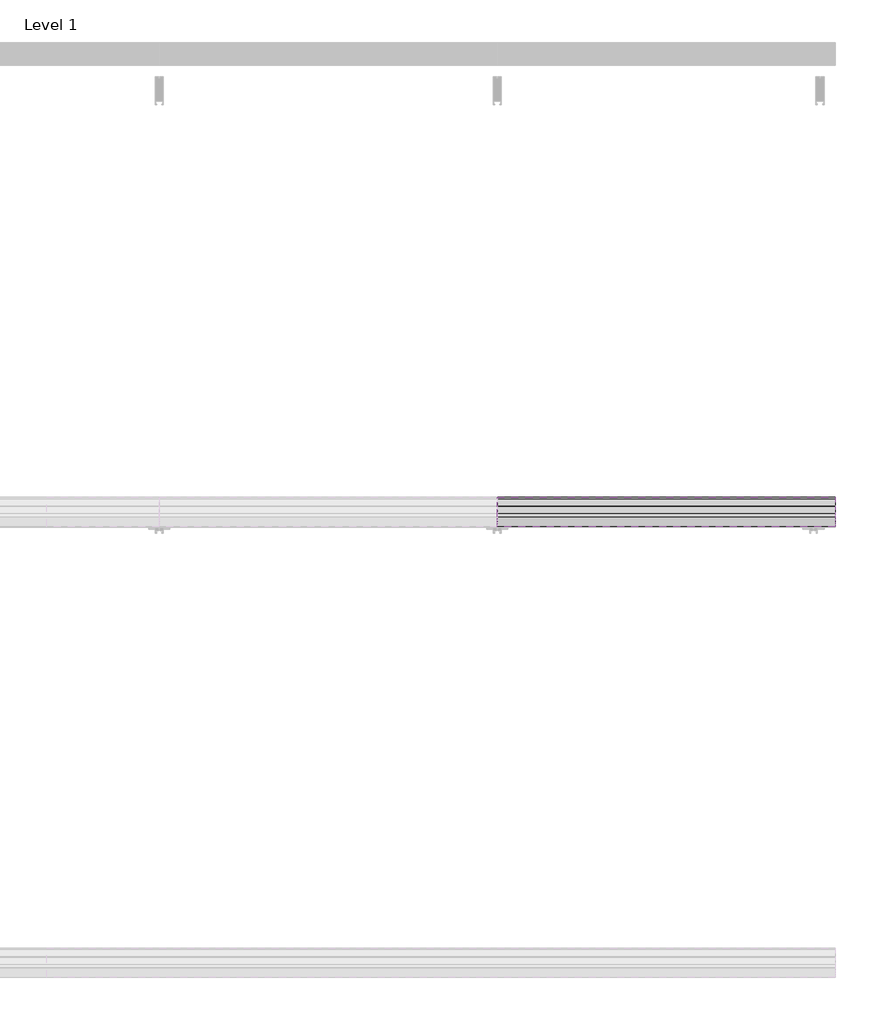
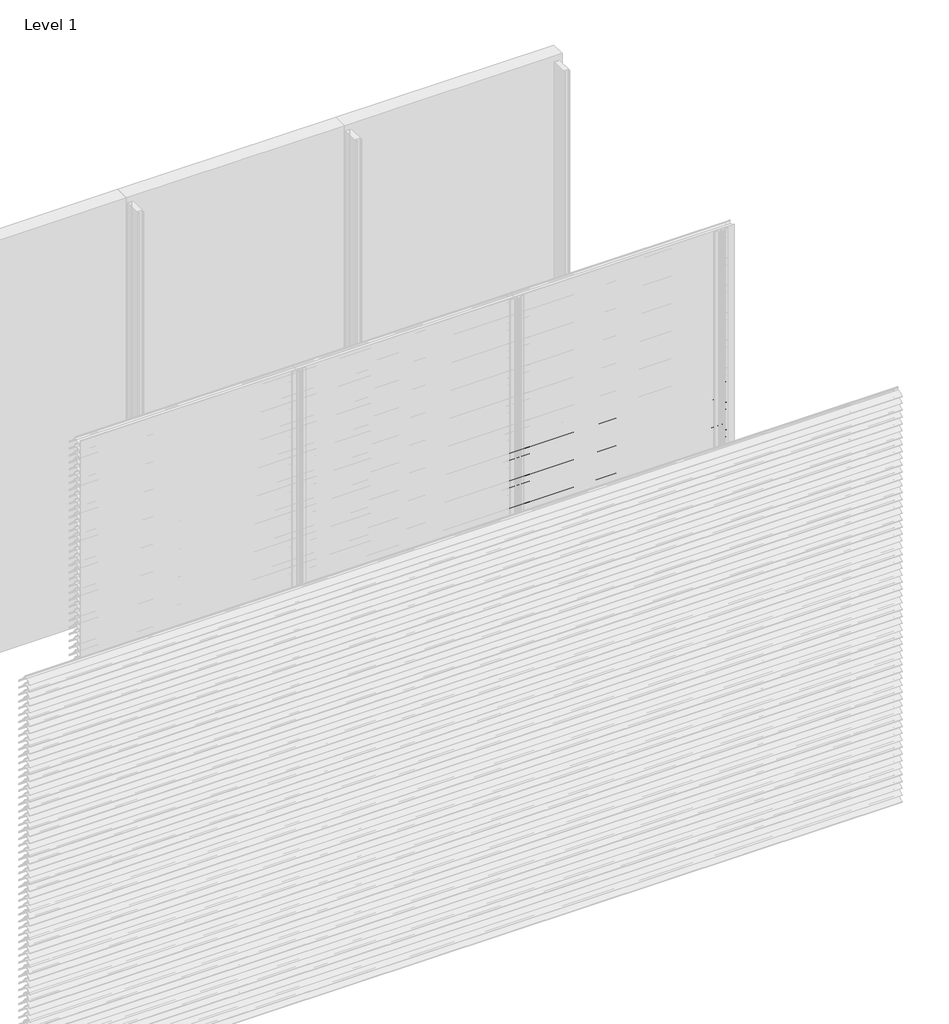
# One storey, part 18 of 173: 17 proxies.
"""IFC4 building model written with IfcOpenShell, lengths in millimetres."""

from ifc_helpers import new_model, si_unit, point, frame, frame_2d, origin, place, context, project, spatial, polyline, circle_curve, trimmed, segment, composite_curve, outline, extrude, element, save

model = new_model("IFC4")

# Units and contexts
model_context = context("Model", 3, world=origin())
ifc_project = project(units=[si_unit("LENGTHUNIT", "METRE", prefix="MILLI")], contexts=[model_context])

# Site, building, storey
site = spatial("IfcSite", under=ifc_project)
building = spatial("IfcBuilding", under=site)
storey = spatial("IfcBuildingStorey", under=building, Name="Level 1", Elevation=0.0)

# Proxies
placement = place(None, origin())
element("IfcBuildingElementProxy", 1, Name="Wall Sweeps", at=placement, inside=storey, context=model_context, shape_type="SweptSolid", body=[
    extrude(outline(composite_curve([segment(polyline([(-53998.0, 1809.1474905), (-53998.0, 1811.6227417)]), True, "CONTINUOUS"), segment(trimmed(circle_curve(frame_2d((-53951.2682172, 1766.2200208)), 65.1557103), [point((-53998.0, 1811.6227417))], [point((-53954.4014323, 1831.3003524))], False, "CARTESIAN"), True, "CONTINUOUS"), segment(polyline([(-53954.4014323, 1831.3003524), (-53934.8315836, 1831.3003524)]), True, "CONTINUOUS"), segment(trimmed(circle_curve(frame_2d((-53732.7329489, 1978.5533172)), 250.0545817), [point((-53934.8315836, 1831.3003524))], [point((-53941.4452143, 1840.8344583))], False, "CARTESIAN"), True, "CONTINUOUS"), segment(trimmed(circle_curve(frame_2d((-53953.2981792, 1835.1737835)), 13.1352966), [point((-53941.4452143, 1840.8344583))], [point((-53953.8171475, 1848.298824))], True, "CARTESIAN"), True, "CONTINUOUS"), segment(polyline([(-53953.8171475, 1848.298824), (-53953.8171475, 1850.0)]), True, "CONTINUOUS"), segment(trimmed(circle_curve(frame_2d((-53953.2981792, 1835.1737835)), 14.8352966), [point((-53953.8171475, 1850.0))], [point((-53939.9637661, 1841.6760487))], False, "CARTESIAN"), True, "CONTINUOUS"), segment(trimmed(circle_curve(frame_2d((-53732.7329489, 1978.5533172)), 248.3545817), [point((-53939.9637661, 1841.6760487))], [point((-53873.8787895, 1774.2059416))], True, "CARTESIAN"), True, "CONTINUOUS"), segment(trimmed(circle_curve(frame_2d((-53883.8147537, 1761.6649442)), 16.0), [point((-53873.8787895, 1774.2059416))], [point((-53867.8648347, 1760.4))], False, "CARTESIAN"), True, "CONTINUOUS"), segment(polyline([(-53867.8648347, 1760.4), (-53869.6712069, 1760.4)]), True, "CONTINUOUS"), segment(trimmed(circle_curve(frame_2d((-53883.8147537, 1761.6649442)), 14.2), [point((-53869.6712069, 1760.4))], [point((-53874.9518628, 1772.7594998))], True, "CARTESIAN"), True, "CONTINUOUS"), segment(trimmed(circle_curve(frame_2d((-53732.7329489, 1978.5533172)), 250.1545817), [point((-53874.9518628, 1772.7594998))], [point((-53933.7064024, 1829.6003524))], False, "CARTESIAN"), True, "CONTINUOUS"), segment(polyline([(-53933.7064024, 1829.6003524), (-53954.3602632, 1829.6003524)]), True, "CONTINUOUS"), segment(trimmed(circle_curve(frame_2d((-53951.2682172, 1766.2200208)), 63.4557103), [point((-53954.3602632, 1829.6003524))], [point((-53998.0, 1809.1474905))], True, "CARTESIAN"), True, "CONTINUOUS")], self_intersect=False)), frame((4500.0, 0.0, 0.0), z_axis=(1.0, 0.0, 0.0), x_axis=(0.0, 1.0, 0.0)), (0.0, 0.0, 1.0), 1500.0),
])
element("IfcBuildingElementProxy", 2, Name="Wall Sweeps", at=placement, inside=storey, context=model_context, shape_type="SweptSolid", body=[
    extrude(outline(composite_curve([segment(polyline([(-53998.0, 1759.1474905), (-53998.0, 1761.6227417)]), True, "CONTINUOUS"), segment(trimmed(circle_curve(frame_2d((-53951.2682172, 1716.2200208)), 65.1557103), [point((-53998.0, 1761.6227417))], [point((-53954.4014323, 1781.3003524))], False, "CARTESIAN"), True, "CONTINUOUS"), segment(polyline([(-53954.4014323, 1781.3003524), (-53934.8315836, 1781.3003524)]), True, "CONTINUOUS"), segment(trimmed(circle_curve(frame_2d((-53732.7329489, 1928.5533172)), 250.0545817), [point((-53934.8315836, 1781.3003524))], [point((-53941.4452143, 1790.8344583))], False, "CARTESIAN"), True, "CONTINUOUS"), segment(trimmed(circle_curve(frame_2d((-53953.2981792, 1785.1737835)), 13.1352966), [point((-53941.4452143, 1790.8344583))], [point((-53953.8171475, 1798.298824))], True, "CARTESIAN"), True, "CONTINUOUS"), segment(polyline([(-53953.8171475, 1798.298824), (-53953.8171475, 1800.0)]), True, "CONTINUOUS"), segment(trimmed(circle_curve(frame_2d((-53953.2981792, 1785.1737835)), 14.8352966), [point((-53953.8171475, 1800.0))], [point((-53939.9637661, 1791.6760487))], False, "CARTESIAN"), True, "CONTINUOUS"), segment(trimmed(circle_curve(frame_2d((-53732.7329489, 1928.5533172)), 248.3545817), [point((-53939.9637661, 1791.6760487))], [point((-53873.8787895, 1724.2059416))], True, "CARTESIAN"), True, "CONTINUOUS"), segment(trimmed(circle_curve(frame_2d((-53883.8147537, 1711.6649442)), 16.0), [point((-53873.8787895, 1724.2059416))], [point((-53867.8648347, 1710.4))], False, "CARTESIAN"), True, "CONTINUOUS"), segment(polyline([(-53867.8648347, 1710.4), (-53869.6712069, 1710.4)]), True, "CONTINUOUS"), segment(trimmed(circle_curve(frame_2d((-53883.8147537, 1711.6649442)), 14.2), [point((-53869.6712069, 1710.4))], [point((-53874.9518628, 1722.7594998))], True, "CARTESIAN"), True, "CONTINUOUS"), segment(trimmed(circle_curve(frame_2d((-53732.7329489, 1928.5533172)), 250.1545817), [point((-53874.9518628, 1722.7594998))], [point((-53933.7064024, 1779.6003524))], False, "CARTESIAN"), True, "CONTINUOUS"), segment(polyline([(-53933.7064024, 1779.6003524), (-53954.3602632, 1779.6003524)]), True, "CONTINUOUS"), segment(trimmed(circle_curve(frame_2d((-53951.2682172, 1716.2200208)), 63.4557103), [point((-53954.3602632, 1779.6003524))], [point((-53998.0, 1759.1474905))], True, "CARTESIAN"), True, "CONTINUOUS")], self_intersect=False)), frame((4500.0, 0.0, 0.0), z_axis=(1.0, 0.0, 0.0), x_axis=(0.0, 1.0, 0.0)), (0.0, 0.0, 1.0), 1500.0),
])
element("IfcBuildingElementProxy", 3, Name="Wall Sweeps", at=placement, inside=storey, context=model_context, shape_type="SweptSolid", body=[
    extrude(outline(composite_curve([segment(polyline([(-53998.0, 1709.1474905), (-53998.0, 1711.6227417)]), True, "CONTINUOUS"), segment(trimmed(circle_curve(frame_2d((-53951.2682172, 1666.2200208)), 65.1557103), [point((-53998.0, 1711.6227417))], [point((-53954.4014323, 1731.3003524))], False, "CARTESIAN"), True, "CONTINUOUS"), segment(polyline([(-53954.4014323, 1731.3003524), (-53934.8315836, 1731.3003524)]), True, "CONTINUOUS"), segment(trimmed(circle_curve(frame_2d((-53732.7329489, 1878.5533172)), 250.0545817), [point((-53934.8315836, 1731.3003524))], [point((-53941.4452143, 1740.8344583))], False, "CARTESIAN"), True, "CONTINUOUS"), segment(trimmed(circle_curve(frame_2d((-53953.2981792, 1735.1737835)), 13.1352966), [point((-53941.4452143, 1740.8344583))], [point((-53953.8171475, 1748.298824))], True, "CARTESIAN"), True, "CONTINUOUS"), segment(polyline([(-53953.8171475, 1748.298824), (-53953.8171475, 1750.0)]), True, "CONTINUOUS"), segment(trimmed(circle_curve(frame_2d((-53953.2981792, 1735.1737835)), 14.8352966), [point((-53953.8171475, 1750.0))], [point((-53939.9637661, 1741.6760487))], False, "CARTESIAN"), True, "CONTINUOUS"), segment(trimmed(circle_curve(frame_2d((-53732.7329489, 1878.5533172)), 248.3545817), [point((-53939.9637661, 1741.6760487))], [point((-53873.8787895, 1674.2059416))], True, "CARTESIAN"), True, "CONTINUOUS"), segment(trimmed(circle_curve(frame_2d((-53883.8147537, 1661.6649442)), 16.0), [point((-53873.8787895, 1674.2059416))], [point((-53867.8648347, 1660.4))], False, "CARTESIAN"), True, "CONTINUOUS"), segment(polyline([(-53867.8648347, 1660.4), (-53869.6712069, 1660.4)]), True, "CONTINUOUS"), segment(trimmed(circle_curve(frame_2d((-53883.8147537, 1661.6649442)), 14.2), [point((-53869.6712069, 1660.4))], [point((-53874.9518628, 1672.7594998))], True, "CARTESIAN"), True, "CONTINUOUS"), segment(trimmed(circle_curve(frame_2d((-53732.7329489, 1878.5533172)), 250.1545817), [point((-53874.9518628, 1672.7594998))], [point((-53933.7064024, 1729.6003524))], False, "CARTESIAN"), True, "CONTINUOUS"), segment(polyline([(-53933.7064024, 1729.6003524), (-53954.3602632, 1729.6003524)]), True, "CONTINUOUS"), segment(trimmed(circle_curve(frame_2d((-53951.2682172, 1666.2200208)), 63.4557103), [point((-53954.3602632, 1729.6003524))], [point((-53998.0, 1709.1474905))], True, "CARTESIAN"), True, "CONTINUOUS")], self_intersect=False)), frame((4500.0, 0.0, 0.0), z_axis=(1.0, 0.0, 0.0), x_axis=(0.0, 1.0, 0.0)), (0.0, 0.0, 1.0), 1500.0),
])
element("IfcBuildingElementProxy", 4, Name="Wall Sweeps", at=placement, inside=storey, context=model_context, shape_type="SweptSolid", body=[
    extrude(outline(composite_curve([segment(polyline([(-53998.0, 1659.1474905), (-53998.0, 1661.6227417)]), True, "CONTINUOUS"), segment(trimmed(circle_curve(frame_2d((-53951.2682172, 1616.2200208)), 65.1557103), [point((-53998.0, 1661.6227417))], [point((-53954.4014323, 1681.3003524))], False, "CARTESIAN"), True, "CONTINUOUS"), segment(polyline([(-53954.4014323, 1681.3003524), (-53934.8315836, 1681.3003524)]), True, "CONTINUOUS"), segment(trimmed(circle_curve(frame_2d((-53732.7329489, 1828.5533172)), 250.0545817), [point((-53934.8315836, 1681.3003524))], [point((-53941.4452143, 1690.8344583))], False, "CARTESIAN"), True, "CONTINUOUS"), segment(trimmed(circle_curve(frame_2d((-53953.2981792, 1685.1737835)), 13.1352966), [point((-53941.4452143, 1690.8344583))], [point((-53953.8171475, 1698.298824))], True, "CARTESIAN"), True, "CONTINUOUS"), segment(polyline([(-53953.8171475, 1698.298824), (-53953.8171475, 1700.0)]), True, "CONTINUOUS"), segment(trimmed(circle_curve(frame_2d((-53953.2981792, 1685.1737835)), 14.8352966), [point((-53953.8171475, 1700.0))], [point((-53939.9637661, 1691.6760487))], False, "CARTESIAN"), True, "CONTINUOUS"), segment(trimmed(circle_curve(frame_2d((-53732.7329489, 1828.5533172)), 248.3545817), [point((-53939.9637661, 1691.6760487))], [point((-53873.8787895, 1624.2059416))], True, "CARTESIAN"), True, "CONTINUOUS"), segment(trimmed(circle_curve(frame_2d((-53883.8147537, 1611.6649442)), 16.0), [point((-53873.8787895, 1624.2059416))], [point((-53867.8648347, 1610.4))], False, "CARTESIAN"), True, "CONTINUOUS"), segment(polyline([(-53867.8648347, 1610.4), (-53869.6712069, 1610.4)]), True, "CONTINUOUS"), segment(trimmed(circle_curve(frame_2d((-53883.8147537, 1611.6649442)), 14.2), [point((-53869.6712069, 1610.4))], [point((-53874.9518628, 1622.7594998))], True, "CARTESIAN"), True, "CONTINUOUS"), segment(trimmed(circle_curve(frame_2d((-53732.7329489, 1828.5533172)), 250.1545817), [point((-53874.9518628, 1622.7594998))], [point((-53933.7064024, 1679.6003524))], False, "CARTESIAN"), True, "CONTINUOUS"), segment(polyline([(-53933.7064024, 1679.6003524), (-53954.3602632, 1679.6003524)]), True, "CONTINUOUS"), segment(trimmed(circle_curve(frame_2d((-53951.2682172, 1616.2200208)), 63.4557103), [point((-53954.3602632, 1679.6003524))], [point((-53998.0, 1659.1474905))], True, "CARTESIAN"), True, "CONTINUOUS")], self_intersect=False)), frame((4500.0, 0.0, 0.0), z_axis=(1.0, 0.0, 0.0), x_axis=(0.0, 1.0, 0.0)), (0.0, 0.0, 1.0), 1500.0),
])
element("IfcBuildingElementProxy", 5, Name="Wall Sweeps", at=placement, inside=storey, context=model_context, shape_type="SweptSolid", body=[
    extrude(outline(composite_curve([segment(polyline([(-53998.0, 1609.1474905), (-53998.0, 1611.6227417)]), True, "CONTINUOUS"), segment(trimmed(circle_curve(frame_2d((-53951.2682172, 1566.2200208)), 65.1557103), [point((-53998.0, 1611.6227417))], [point((-53954.4014323, 1631.3003524))], False, "CARTESIAN"), True, "CONTINUOUS"), segment(polyline([(-53954.4014323, 1631.3003524), (-53934.8315836, 1631.3003524)]), True, "CONTINUOUS"), segment(trimmed(circle_curve(frame_2d((-53732.7329489, 1778.5533172)), 250.0545817), [point((-53934.8315836, 1631.3003524))], [point((-53941.4452143, 1640.8344583))], False, "CARTESIAN"), True, "CONTINUOUS"), segment(trimmed(circle_curve(frame_2d((-53953.2981792, 1635.1737835)), 13.1352966), [point((-53941.4452143, 1640.8344583))], [point((-53953.8171475, 1648.298824))], True, "CARTESIAN"), True, "CONTINUOUS"), segment(polyline([(-53953.8171475, 1648.298824), (-53953.8171475, 1650.0)]), True, "CONTINUOUS"), segment(trimmed(circle_curve(frame_2d((-53953.2981792, 1635.1737835)), 14.8352966), [point((-53953.8171475, 1650.0))], [point((-53939.9637661, 1641.6760487))], False, "CARTESIAN"), True, "CONTINUOUS"), segment(trimmed(circle_curve(frame_2d((-53732.7329489, 1778.5533172)), 248.3545817), [point((-53939.9637661, 1641.6760487))], [point((-53873.8787895, 1574.2059416))], True, "CARTESIAN"), True, "CONTINUOUS"), segment(trimmed(circle_curve(frame_2d((-53883.8147537, 1561.6649442)), 16.0), [point((-53873.8787895, 1574.2059416))], [point((-53867.8648347, 1560.4))], False, "CARTESIAN"), True, "CONTINUOUS"), segment(polyline([(-53867.8648347, 1560.4), (-53869.6712069, 1560.4)]), True, "CONTINUOUS"), segment(trimmed(circle_curve(frame_2d((-53883.8147537, 1561.6649442)), 14.2), [point((-53869.6712069, 1560.4))], [point((-53874.9518628, 1572.7594998))], True, "CARTESIAN"), True, "CONTINUOUS"), segment(trimmed(circle_curve(frame_2d((-53732.7329489, 1778.5533172)), 250.1545817), [point((-53874.9518628, 1572.7594998))], [point((-53933.7064024, 1629.6003524))], False, "CARTESIAN"), True, "CONTINUOUS"), segment(polyline([(-53933.7064024, 1629.6003524), (-53954.3602632, 1629.6003524)]), True, "CONTINUOUS"), segment(trimmed(circle_curve(frame_2d((-53951.2682172, 1566.2200208)), 63.4557103), [point((-53954.3602632, 1629.6003524))], [point((-53998.0, 1609.1474905))], True, "CARTESIAN"), True, "CONTINUOUS")], self_intersect=False)), frame((4500.0, 0.0, 0.0), z_axis=(1.0, 0.0, 0.0), x_axis=(0.0, 1.0, 0.0)), (0.0, 0.0, 1.0), 1500.0),
])
element("IfcBuildingElementProxy", 6, Name="Wall Sweeps", at=placement, inside=storey, context=model_context, shape_type="SweptSolid", body=[
    extrude(outline(composite_curve([segment(polyline([(-53998.0, 1559.1474905), (-53998.0, 1561.6227417)]), True, "CONTINUOUS"), segment(trimmed(circle_curve(frame_2d((-53951.2682172, 1516.2200208)), 65.1557103), [point((-53998.0, 1561.6227417))], [point((-53954.4014323, 1581.3003524))], False, "CARTESIAN"), True, "CONTINUOUS"), segment(polyline([(-53954.4014323, 1581.3003524), (-53934.8315836, 1581.3003524)]), True, "CONTINUOUS"), segment(trimmed(circle_curve(frame_2d((-53732.7329489, 1728.5533172)), 250.0545817), [point((-53934.8315836, 1581.3003524))], [point((-53941.4452143, 1590.8344583))], False, "CARTESIAN"), True, "CONTINUOUS"), segment(trimmed(circle_curve(frame_2d((-53953.2981792, 1585.1737835)), 13.1352966), [point((-53941.4452143, 1590.8344583))], [point((-53953.8171475, 1598.298824))], True, "CARTESIAN"), True, "CONTINUOUS"), segment(polyline([(-53953.8171475, 1598.298824), (-53953.8171475, 1600.0)]), True, "CONTINUOUS"), segment(trimmed(circle_curve(frame_2d((-53953.2981792, 1585.1737835)), 14.8352966), [point((-53953.8171475, 1600.0))], [point((-53939.9637661, 1591.6760487))], False, "CARTESIAN"), True, "CONTINUOUS"), segment(trimmed(circle_curve(frame_2d((-53732.7329489, 1728.5533172)), 248.3545817), [point((-53939.9637661, 1591.6760487))], [point((-53873.8787895, 1524.2059416))], True, "CARTESIAN"), True, "CONTINUOUS"), segment(trimmed(circle_curve(frame_2d((-53883.8147537, 1511.6649442)), 16.0), [point((-53873.8787895, 1524.2059416))], [point((-53867.8648347, 1510.4))], False, "CARTESIAN"), True, "CONTINUOUS"), segment(polyline([(-53867.8648347, 1510.4), (-53869.6712069, 1510.4)]), True, "CONTINUOUS"), segment(trimmed(circle_curve(frame_2d((-53883.8147537, 1511.6649442)), 14.2), [point((-53869.6712069, 1510.4))], [point((-53874.9518628, 1522.7594998))], True, "CARTESIAN"), True, "CONTINUOUS"), segment(trimmed(circle_curve(frame_2d((-53732.7329489, 1728.5533172)), 250.1545817), [point((-53874.9518628, 1522.7594998))], [point((-53933.7064024, 1579.6003524))], False, "CARTESIAN"), True, "CONTINUOUS"), segment(polyline([(-53933.7064024, 1579.6003524), (-53954.3602632, 1579.6003524)]), True, "CONTINUOUS"), segment(trimmed(circle_curve(frame_2d((-53951.2682172, 1516.2200208)), 63.4557103), [point((-53954.3602632, 1579.6003524))], [point((-53998.0, 1559.1474905))], True, "CARTESIAN"), True, "CONTINUOUS")], self_intersect=False)), frame((4500.0, 0.0, 0.0), z_axis=(1.0, 0.0, 0.0), x_axis=(0.0, 1.0, 0.0)), (0.0, 0.0, 1.0), 1500.0),
])
element("IfcBuildingElementProxy", 7, Name="Wall Sweeps", at=placement, inside=storey, context=model_context, shape_type="SweptSolid", body=[
    extrude(outline(composite_curve([segment(polyline([(-53998.0, 1509.1474905), (-53998.0, 1511.6227417)]), True, "CONTINUOUS"), segment(trimmed(circle_curve(frame_2d((-53951.2682172, 1466.2200208)), 65.1557103), [point((-53998.0, 1511.6227417))], [point((-53954.4014323, 1531.3003524))], False, "CARTESIAN"), True, "CONTINUOUS"), segment(polyline([(-53954.4014323, 1531.3003524), (-53934.8315836, 1531.3003524)]), True, "CONTINUOUS"), segment(trimmed(circle_curve(frame_2d((-53732.7329489, 1678.5533172)), 250.0545817), [point((-53934.8315836, 1531.3003524))], [point((-53941.4452143, 1540.8344583))], False, "CARTESIAN"), True, "CONTINUOUS"), segment(trimmed(circle_curve(frame_2d((-53953.2981792, 1535.1737835)), 13.1352966), [point((-53941.4452143, 1540.8344583))], [point((-53953.8171475, 1548.298824))], True, "CARTESIAN"), True, "CONTINUOUS"), segment(polyline([(-53953.8171475, 1548.298824), (-53953.8171475, 1550.0)]), True, "CONTINUOUS"), segment(trimmed(circle_curve(frame_2d((-53953.2981792, 1535.1737835)), 14.8352966), [point((-53953.8171475, 1550.0))], [point((-53939.9637661, 1541.6760487))], False, "CARTESIAN"), True, "CONTINUOUS"), segment(trimmed(circle_curve(frame_2d((-53732.7329489, 1678.5533172)), 248.3545817), [point((-53939.9637661, 1541.6760487))], [point((-53873.8787895, 1474.2059416))], True, "CARTESIAN"), True, "CONTINUOUS"), segment(trimmed(circle_curve(frame_2d((-53883.8147537, 1461.6649442)), 16.0), [point((-53873.8787895, 1474.2059416))], [point((-53867.8648347, 1460.4))], False, "CARTESIAN"), True, "CONTINUOUS"), segment(polyline([(-53867.8648347, 1460.4), (-53869.6712069, 1460.4)]), True, "CONTINUOUS"), segment(trimmed(circle_curve(frame_2d((-53883.8147537, 1461.6649442)), 14.2), [point((-53869.6712069, 1460.4))], [point((-53874.9518628, 1472.7594998))], True, "CARTESIAN"), True, "CONTINUOUS"), segment(trimmed(circle_curve(frame_2d((-53732.7329489, 1678.5533172)), 250.1545817), [point((-53874.9518628, 1472.7594998))], [point((-53933.7064024, 1529.6003524))], False, "CARTESIAN"), True, "CONTINUOUS"), segment(polyline([(-53933.7064024, 1529.6003524), (-53954.3602632, 1529.6003524)]), True, "CONTINUOUS"), segment(trimmed(circle_curve(frame_2d((-53951.2682172, 1466.2200208)), 63.4557103), [point((-53954.3602632, 1529.6003524))], [point((-53998.0, 1509.1474905))], True, "CARTESIAN"), True, "CONTINUOUS")], self_intersect=False)), frame((4500.0, 0.0, 0.0), z_axis=(1.0, 0.0, 0.0), x_axis=(0.0, 1.0, 0.0)), (0.0, 0.0, 1.0), 1500.0),
])
element("IfcBuildingElementProxy", 8, Name="Wall Sweeps", at=placement, inside=storey, context=model_context, shape_type="SweptSolid", body=[
    extrude(outline(composite_curve([segment(polyline([(-53998.0, 1459.1474905), (-53998.0, 1461.6227417)]), True, "CONTINUOUS"), segment(trimmed(circle_curve(frame_2d((-53951.2682172, 1416.2200208)), 65.1557103), [point((-53998.0, 1461.6227417))], [point((-53954.4014323, 1481.3003524))], False, "CARTESIAN"), True, "CONTINUOUS"), segment(polyline([(-53954.4014323, 1481.3003524), (-53934.8315836, 1481.3003524)]), True, "CONTINUOUS"), segment(trimmed(circle_curve(frame_2d((-53732.7329489, 1628.5533172)), 250.0545817), [point((-53934.8315836, 1481.3003524))], [point((-53941.4452143, 1490.8344583))], False, "CARTESIAN"), True, "CONTINUOUS"), segment(trimmed(circle_curve(frame_2d((-53953.2981792, 1485.1737835)), 13.1352966), [point((-53941.4452143, 1490.8344583))], [point((-53953.8171475, 1498.298824))], True, "CARTESIAN"), True, "CONTINUOUS"), segment(polyline([(-53953.8171475, 1498.298824), (-53953.8171475, 1500.0)]), True, "CONTINUOUS"), segment(trimmed(circle_curve(frame_2d((-53953.2981792, 1485.1737835)), 14.8352966), [point((-53953.8171475, 1500.0))], [point((-53939.9637661, 1491.6760487))], False, "CARTESIAN"), True, "CONTINUOUS"), segment(trimmed(circle_curve(frame_2d((-53732.7329489, 1628.5533172)), 248.3545817), [point((-53939.9637661, 1491.6760487))], [point((-53873.8787895, 1424.2059416))], True, "CARTESIAN"), True, "CONTINUOUS"), segment(trimmed(circle_curve(frame_2d((-53883.8147537, 1411.6649442)), 16.0), [point((-53873.8787895, 1424.2059416))], [point((-53867.8648347, 1410.4))], False, "CARTESIAN"), True, "CONTINUOUS"), segment(polyline([(-53867.8648347, 1410.4), (-53869.6712069, 1410.4)]), True, "CONTINUOUS"), segment(trimmed(circle_curve(frame_2d((-53883.8147537, 1411.6649442)), 14.2), [point((-53869.6712069, 1410.4))], [point((-53874.9518628, 1422.7594998))], True, "CARTESIAN"), True, "CONTINUOUS"), segment(trimmed(circle_curve(frame_2d((-53732.7329489, 1628.5533172)), 250.1545817), [point((-53874.9518628, 1422.7594998))], [point((-53933.7064024, 1479.6003524))], False, "CARTESIAN"), True, "CONTINUOUS"), segment(polyline([(-53933.7064024, 1479.6003524), (-53954.3602632, 1479.6003524)]), True, "CONTINUOUS"), segment(trimmed(circle_curve(frame_2d((-53951.2682172, 1416.2200208)), 63.4557103), [point((-53954.3602632, 1479.6003524))], [point((-53998.0, 1459.1474905))], True, "CARTESIAN"), True, "CONTINUOUS")], self_intersect=False)), frame((4500.0, 0.0, 0.0), z_axis=(1.0, 0.0, 0.0), x_axis=(0.0, 1.0, 0.0)), (0.0, 0.0, 1.0), 1500.0),
])
element("IfcBuildingElementProxy", 9, Name="Wall Sweeps", at=placement, inside=storey, context=model_context, shape_type="SweptSolid", body=[
    extrude(outline(composite_curve([segment(polyline([(-53998.0, 1409.1474905), (-53998.0, 1411.6227417)]), True, "CONTINUOUS"), segment(trimmed(circle_curve(frame_2d((-53951.2682172, 1366.2200208)), 65.1557103), [point((-53998.0, 1411.6227417))], [point((-53954.4014323, 1431.3003524))], False, "CARTESIAN"), True, "CONTINUOUS"), segment(polyline([(-53954.4014323, 1431.3003524), (-53934.8315836, 1431.3003524)]), True, "CONTINUOUS"), segment(trimmed(circle_curve(frame_2d((-53732.7329489, 1578.5533172)), 250.0545817), [point((-53934.8315836, 1431.3003524))], [point((-53941.4452143, 1440.8344583))], False, "CARTESIAN"), True, "CONTINUOUS"), segment(trimmed(circle_curve(frame_2d((-53953.2981792, 1435.1737835)), 13.1352966), [point((-53941.4452143, 1440.8344583))], [point((-53953.8171475, 1448.298824))], True, "CARTESIAN"), True, "CONTINUOUS"), segment(polyline([(-53953.8171475, 1448.298824), (-53953.8171475, 1450.0)]), True, "CONTINUOUS"), segment(trimmed(circle_curve(frame_2d((-53953.2981792, 1435.1737835)), 14.8352966), [point((-53953.8171475, 1450.0))], [point((-53939.9637661, 1441.6760487))], False, "CARTESIAN"), True, "CONTINUOUS"), segment(trimmed(circle_curve(frame_2d((-53732.7329489, 1578.5533172)), 248.3545817), [point((-53939.9637661, 1441.6760487))], [point((-53873.8787895, 1374.2059416))], True, "CARTESIAN"), True, "CONTINUOUS"), segment(trimmed(circle_curve(frame_2d((-53883.8147537, 1361.6649442)), 16.0), [point((-53873.8787895, 1374.2059416))], [point((-53867.8648347, 1360.4))], False, "CARTESIAN"), True, "CONTINUOUS"), segment(polyline([(-53867.8648347, 1360.4), (-53869.6712069, 1360.4)]), True, "CONTINUOUS"), segment(trimmed(circle_curve(frame_2d((-53883.8147537, 1361.6649442)), 14.2), [point((-53869.6712069, 1360.4))], [point((-53874.9518628, 1372.7594998))], True, "CARTESIAN"), True, "CONTINUOUS"), segment(trimmed(circle_curve(frame_2d((-53732.7329489, 1578.5533172)), 250.1545817), [point((-53874.9518628, 1372.7594998))], [point((-53933.7064024, 1429.6003524))], False, "CARTESIAN"), True, "CONTINUOUS"), segment(polyline([(-53933.7064024, 1429.6003524), (-53954.3602632, 1429.6003524)]), True, "CONTINUOUS"), segment(trimmed(circle_curve(frame_2d((-53951.2682172, 1366.2200208)), 63.4557103), [point((-53954.3602632, 1429.6003524))], [point((-53998.0, 1409.1474905))], True, "CARTESIAN"), True, "CONTINUOUS")], self_intersect=False)), frame((4500.0, 0.0, 0.0), z_axis=(1.0, 0.0, 0.0), x_axis=(0.0, 1.0, 0.0)), (0.0, 0.0, 1.0), 1500.0),
])
element("IfcBuildingElementProxy", 10, Name="Wall Sweeps", at=placement, inside=storey, context=model_context, shape_type="SweptSolid", body=[
    extrude(outline(composite_curve([segment(polyline([(-53998.0, 1359.1474905), (-53998.0, 1361.6227417)]), True, "CONTINUOUS"), segment(trimmed(circle_curve(frame_2d((-53951.2682172, 1316.2200208)), 65.1557103), [point((-53998.0, 1361.6227417))], [point((-53954.4014323, 1381.3003524))], False, "CARTESIAN"), True, "CONTINUOUS"), segment(polyline([(-53954.4014323, 1381.3003524), (-53934.8315836, 1381.3003524)]), True, "CONTINUOUS"), segment(trimmed(circle_curve(frame_2d((-53732.7329489, 1528.5533172)), 250.0545817), [point((-53934.8315836, 1381.3003524))], [point((-53941.4452143, 1390.8344583))], False, "CARTESIAN"), True, "CONTINUOUS"), segment(trimmed(circle_curve(frame_2d((-53953.2981792, 1385.1737835)), 13.1352966), [point((-53941.4452143, 1390.8344583))], [point((-53953.8171475, 1398.298824))], True, "CARTESIAN"), True, "CONTINUOUS"), segment(polyline([(-53953.8171475, 1398.298824), (-53953.8171475, 1400.0)]), True, "CONTINUOUS"), segment(trimmed(circle_curve(frame_2d((-53953.2981792, 1385.1737835)), 14.8352966), [point((-53953.8171475, 1400.0))], [point((-53939.9637661, 1391.6760487))], False, "CARTESIAN"), True, "CONTINUOUS"), segment(trimmed(circle_curve(frame_2d((-53732.7329489, 1528.5533172)), 248.3545817), [point((-53939.9637661, 1391.6760487))], [point((-53873.8787895, 1324.2059416))], True, "CARTESIAN"), True, "CONTINUOUS"), segment(trimmed(circle_curve(frame_2d((-53883.8147537, 1311.6649442)), 16.0), [point((-53873.8787895, 1324.2059416))], [point((-53867.8648347, 1310.4))], False, "CARTESIAN"), True, "CONTINUOUS"), segment(polyline([(-53867.8648347, 1310.4), (-53869.6712069, 1310.4)]), True, "CONTINUOUS"), segment(trimmed(circle_curve(frame_2d((-53883.8147537, 1311.6649442)), 14.2), [point((-53869.6712069, 1310.4))], [point((-53874.9518628, 1322.7594998))], True, "CARTESIAN"), True, "CONTINUOUS"), segment(trimmed(circle_curve(frame_2d((-53732.7329489, 1528.5533172)), 250.1545817), [point((-53874.9518628, 1322.7594998))], [point((-53933.7064024, 1379.6003524))], False, "CARTESIAN"), True, "CONTINUOUS"), segment(polyline([(-53933.7064024, 1379.6003524), (-53954.3602632, 1379.6003524)]), True, "CONTINUOUS"), segment(trimmed(circle_curve(frame_2d((-53951.2682172, 1316.2200208)), 63.4557103), [point((-53954.3602632, 1379.6003524))], [point((-53998.0, 1359.1474905))], True, "CARTESIAN"), True, "CONTINUOUS")], self_intersect=False)), frame((4500.0, 0.0, 0.0), z_axis=(1.0, 0.0, 0.0), x_axis=(0.0, 1.0, 0.0)), (0.0, 0.0, 1.0), 1500.0),
])
element("IfcBuildingElementProxy", 11, Name="Wall Sweeps", at=placement, inside=storey, context=model_context, shape_type="SweptSolid", body=[
    extrude(outline(composite_curve([segment(polyline([(-53998.0, 1309.1474905), (-53998.0, 1311.6227417)]), True, "CONTINUOUS"), segment(trimmed(circle_curve(frame_2d((-53951.2682172, 1266.2200208)), 65.1557103), [point((-53998.0, 1311.6227417))], [point((-53954.4014323, 1331.3003524))], False, "CARTESIAN"), True, "CONTINUOUS"), segment(polyline([(-53954.4014323, 1331.3003524), (-53934.8315836, 1331.3003524)]), True, "CONTINUOUS"), segment(trimmed(circle_curve(frame_2d((-53732.7329489, 1478.5533172)), 250.0545817), [point((-53934.8315836, 1331.3003524))], [point((-53941.4452143, 1340.8344583))], False, "CARTESIAN"), True, "CONTINUOUS"), segment(trimmed(circle_curve(frame_2d((-53953.2981792, 1335.1737835)), 13.1352966), [point((-53941.4452143, 1340.8344583))], [point((-53953.8171475, 1348.298824))], True, "CARTESIAN"), True, "CONTINUOUS"), segment(polyline([(-53953.8171475, 1348.298824), (-53953.8171475, 1350.0)]), True, "CONTINUOUS"), segment(trimmed(circle_curve(frame_2d((-53953.2981792, 1335.1737835)), 14.8352966), [point((-53953.8171475, 1350.0))], [point((-53939.9637661, 1341.6760487))], False, "CARTESIAN"), True, "CONTINUOUS"), segment(trimmed(circle_curve(frame_2d((-53732.7329489, 1478.5533172)), 248.3545817), [point((-53939.9637661, 1341.6760487))], [point((-53873.8787895, 1274.2059416))], True, "CARTESIAN"), True, "CONTINUOUS"), segment(trimmed(circle_curve(frame_2d((-53883.8147537, 1261.6649442)), 16.0), [point((-53873.8787895, 1274.2059416))], [point((-53867.8648347, 1260.4))], False, "CARTESIAN"), True, "CONTINUOUS"), segment(polyline([(-53867.8648347, 1260.4), (-53869.6712069, 1260.4)]), True, "CONTINUOUS"), segment(trimmed(circle_curve(frame_2d((-53883.8147537, 1261.6649442)), 14.2), [point((-53869.6712069, 1260.4))], [point((-53874.9518628, 1272.7594998))], True, "CARTESIAN"), True, "CONTINUOUS"), segment(trimmed(circle_curve(frame_2d((-53732.7329489, 1478.5533172)), 250.1545817), [point((-53874.9518628, 1272.7594998))], [point((-53933.7064024, 1329.6003524))], False, "CARTESIAN"), True, "CONTINUOUS"), segment(polyline([(-53933.7064024, 1329.6003524), (-53954.3602632, 1329.6003524)]), True, "CONTINUOUS"), segment(trimmed(circle_curve(frame_2d((-53951.2682172, 1266.2200208)), 63.4557103), [point((-53954.3602632, 1329.6003524))], [point((-53998.0, 1309.1474905))], True, "CARTESIAN"), True, "CONTINUOUS")], self_intersect=False)), frame((4500.0, 0.0, 0.0), z_axis=(1.0, 0.0, 0.0), x_axis=(0.0, 1.0, 0.0)), (0.0, 0.0, 1.0), 1500.0),
])
element("IfcBuildingElementProxy", 12, Name="Wall Sweeps", at=placement, inside=storey, context=model_context, shape_type="SweptSolid", body=[
    extrude(outline(composite_curve([segment(polyline([(-53998.0, 1259.1474905), (-53998.0, 1261.6227417)]), True, "CONTINUOUS"), segment(trimmed(circle_curve(frame_2d((-53951.2682172, 1216.2200208)), 65.1557103), [point((-53998.0, 1261.6227417))], [point((-53954.4014323, 1281.3003524))], False, "CARTESIAN"), True, "CONTINUOUS"), segment(polyline([(-53954.4014323, 1281.3003524), (-53934.8315836, 1281.3003524)]), True, "CONTINUOUS"), segment(trimmed(circle_curve(frame_2d((-53732.7329489, 1428.5533172)), 250.0545817), [point((-53934.8315836, 1281.3003524))], [point((-53941.4452143, 1290.8344583))], False, "CARTESIAN"), True, "CONTINUOUS"), segment(trimmed(circle_curve(frame_2d((-53953.2981792, 1285.1737835)), 13.1352966), [point((-53941.4452143, 1290.8344583))], [point((-53953.8171475, 1298.298824))], True, "CARTESIAN"), True, "CONTINUOUS"), segment(polyline([(-53953.8171475, 1298.298824), (-53953.8171475, 1300.0)]), True, "CONTINUOUS"), segment(trimmed(circle_curve(frame_2d((-53953.2981792, 1285.1737835)), 14.8352966), [point((-53953.8171475, 1300.0))], [point((-53939.9637661, 1291.6760487))], False, "CARTESIAN"), True, "CONTINUOUS"), segment(trimmed(circle_curve(frame_2d((-53732.7329489, 1428.5533172)), 248.3545817), [point((-53939.9637661, 1291.6760487))], [point((-53873.8787895, 1224.2059416))], True, "CARTESIAN"), True, "CONTINUOUS"), segment(trimmed(circle_curve(frame_2d((-53883.8147537, 1211.6649442)), 16.0), [point((-53873.8787895, 1224.2059416))], [point((-53867.8648347, 1210.4))], False, "CARTESIAN"), True, "CONTINUOUS"), segment(polyline([(-53867.8648347, 1210.4), (-53869.6712069, 1210.4)]), True, "CONTINUOUS"), segment(trimmed(circle_curve(frame_2d((-53883.8147537, 1211.6649442)), 14.2), [point((-53869.6712069, 1210.4))], [point((-53874.9518628, 1222.7594998))], True, "CARTESIAN"), True, "CONTINUOUS"), segment(trimmed(circle_curve(frame_2d((-53732.7329489, 1428.5533172)), 250.1545817), [point((-53874.9518628, 1222.7594998))], [point((-53933.7064024, 1279.6003524))], False, "CARTESIAN"), True, "CONTINUOUS"), segment(polyline([(-53933.7064024, 1279.6003524), (-53954.3602632, 1279.6003524)]), True, "CONTINUOUS"), segment(trimmed(circle_curve(frame_2d((-53951.2682172, 1216.2200208)), 63.4557103), [point((-53954.3602632, 1279.6003524))], [point((-53998.0, 1259.1474905))], True, "CARTESIAN"), True, "CONTINUOUS")], self_intersect=False)), frame((4500.0, 0.0, 0.0), z_axis=(1.0, 0.0, 0.0), x_axis=(0.0, 1.0, 0.0)), (0.0, 0.0, 1.0), 1500.0),
])
element("IfcBuildingElementProxy", 13, Name="Wall Sweeps", at=placement, inside=storey, context=model_context, shape_type="SweptSolid", body=[
    extrude(outline(composite_curve([segment(polyline([(-53998.0, 1209.1474905), (-53998.0, 1211.6227417)]), True, "CONTINUOUS"), segment(trimmed(circle_curve(frame_2d((-53951.2682172, 1166.2200208)), 65.1557103), [point((-53998.0, 1211.6227417))], [point((-53954.4014323, 1231.3003524))], False, "CARTESIAN"), True, "CONTINUOUS"), segment(polyline([(-53954.4014323, 1231.3003524), (-53934.8315836, 1231.3003524)]), True, "CONTINUOUS"), segment(trimmed(circle_curve(frame_2d((-53732.7329489, 1378.5533172)), 250.0545817), [point((-53934.8315836, 1231.3003524))], [point((-53941.4452143, 1240.8344583))], False, "CARTESIAN"), True, "CONTINUOUS"), segment(trimmed(circle_curve(frame_2d((-53953.2981792, 1235.1737835)), 13.1352966), [point((-53941.4452143, 1240.8344583))], [point((-53953.8171475, 1248.298824))], True, "CARTESIAN"), True, "CONTINUOUS"), segment(polyline([(-53953.8171475, 1248.298824), (-53953.8171475, 1250.0)]), True, "CONTINUOUS"), segment(trimmed(circle_curve(frame_2d((-53953.2981792, 1235.1737835)), 14.8352966), [point((-53953.8171475, 1250.0))], [point((-53939.9637661, 1241.6760487))], False, "CARTESIAN"), True, "CONTINUOUS"), segment(trimmed(circle_curve(frame_2d((-53732.7329489, 1378.5533172)), 248.3545817), [point((-53939.9637661, 1241.6760487))], [point((-53873.8787895, 1174.2059416))], True, "CARTESIAN"), True, "CONTINUOUS"), segment(trimmed(circle_curve(frame_2d((-53883.8147537, 1161.6649442)), 16.0), [point((-53873.8787895, 1174.2059416))], [point((-53867.8648347, 1160.4))], False, "CARTESIAN"), True, "CONTINUOUS"), segment(polyline([(-53867.8648347, 1160.4), (-53869.6712069, 1160.4)]), True, "CONTINUOUS"), segment(trimmed(circle_curve(frame_2d((-53883.8147537, 1161.6649442)), 14.2), [point((-53869.6712069, 1160.4))], [point((-53874.9518628, 1172.7594998))], True, "CARTESIAN"), True, "CONTINUOUS"), segment(trimmed(circle_curve(frame_2d((-53732.7329489, 1378.5533172)), 250.1545817), [point((-53874.9518628, 1172.7594998))], [point((-53933.7064024, 1229.6003524))], False, "CARTESIAN"), True, "CONTINUOUS"), segment(polyline([(-53933.7064024, 1229.6003524), (-53954.3602632, 1229.6003524)]), True, "CONTINUOUS"), segment(trimmed(circle_curve(frame_2d((-53951.2682172, 1166.2200208)), 63.4557103), [point((-53954.3602632, 1229.6003524))], [point((-53998.0, 1209.1474905))], True, "CARTESIAN"), True, "CONTINUOUS")], self_intersect=False)), frame((4500.0, 0.0, 0.0), z_axis=(1.0, 0.0, 0.0), x_axis=(0.0, 1.0, 0.0)), (0.0, 0.0, 1.0), 1500.0),
])
element("IfcBuildingElementProxy", 14, Name="Wall Sweeps", at=placement, inside=storey, context=model_context, shape_type="SweptSolid", body=[
    extrude(outline(composite_curve([segment(polyline([(-53998.0, 1159.1474905), (-53998.0, 1161.6227417)]), True, "CONTINUOUS"), segment(trimmed(circle_curve(frame_2d((-53951.2682172, 1116.2200208)), 65.1557103), [point((-53998.0, 1161.6227417))], [point((-53954.4014323, 1181.3003524))], False, "CARTESIAN"), True, "CONTINUOUS"), segment(polyline([(-53954.4014323, 1181.3003524), (-53934.8315836, 1181.3003524)]), True, "CONTINUOUS"), segment(trimmed(circle_curve(frame_2d((-53732.7329489, 1328.5533172)), 250.0545817), [point((-53934.8315836, 1181.3003524))], [point((-53941.4452143, 1190.8344583))], False, "CARTESIAN"), True, "CONTINUOUS"), segment(trimmed(circle_curve(frame_2d((-53953.2981792, 1185.1737835)), 13.1352966), [point((-53941.4452143, 1190.8344583))], [point((-53953.8171475, 1198.298824))], True, "CARTESIAN"), True, "CONTINUOUS"), segment(polyline([(-53953.8171475, 1198.298824), (-53953.8171475, 1200.0)]), True, "CONTINUOUS"), segment(trimmed(circle_curve(frame_2d((-53953.2981792, 1185.1737835)), 14.8352966), [point((-53953.8171475, 1200.0))], [point((-53939.9637661, 1191.6760487))], False, "CARTESIAN"), True, "CONTINUOUS"), segment(trimmed(circle_curve(frame_2d((-53732.7329489, 1328.5533172)), 248.3545817), [point((-53939.9637661, 1191.6760487))], [point((-53873.8787895, 1124.2059416))], True, "CARTESIAN"), True, "CONTINUOUS"), segment(trimmed(circle_curve(frame_2d((-53883.8147537, 1111.6649442)), 16.0), [point((-53873.8787895, 1124.2059416))], [point((-53867.8648347, 1110.4))], False, "CARTESIAN"), True, "CONTINUOUS"), segment(polyline([(-53867.8648347, 1110.4), (-53869.6712069, 1110.4)]), True, "CONTINUOUS"), segment(trimmed(circle_curve(frame_2d((-53883.8147537, 1111.6649442)), 14.2), [point((-53869.6712069, 1110.4))], [point((-53874.9518628, 1122.7594998))], True, "CARTESIAN"), True, "CONTINUOUS"), segment(trimmed(circle_curve(frame_2d((-53732.7329489, 1328.5533172)), 250.1545817), [point((-53874.9518628, 1122.7594998))], [point((-53933.7064024, 1179.6003524))], False, "CARTESIAN"), True, "CONTINUOUS"), segment(polyline([(-53933.7064024, 1179.6003524), (-53954.3602632, 1179.6003524)]), True, "CONTINUOUS"), segment(trimmed(circle_curve(frame_2d((-53951.2682172, 1116.2200208)), 63.4557103), [point((-53954.3602632, 1179.6003524))], [point((-53998.0, 1159.1474905))], True, "CARTESIAN"), True, "CONTINUOUS")], self_intersect=False)), frame((4500.0, 0.0, 0.0), z_axis=(1.0, 0.0, 0.0), x_axis=(0.0, 1.0, 0.0)), (0.0, 0.0, 1.0), 1500.0),
])
element("IfcBuildingElementProxy", 15, Name="Wall Sweeps", at=placement, inside=storey, context=model_context, shape_type="SweptSolid", body=[
    extrude(outline(composite_curve([segment(polyline([(-53998.0, 1109.1474905), (-53998.0, 1111.6227417)]), True, "CONTINUOUS"), segment(trimmed(circle_curve(frame_2d((-53951.2682172, 1066.2200208)), 65.1557103), [point((-53998.0, 1111.6227417))], [point((-53954.4014323, 1131.3003524))], False, "CARTESIAN"), True, "CONTINUOUS"), segment(polyline([(-53954.4014323, 1131.3003524), (-53934.8315836, 1131.3003524)]), True, "CONTINUOUS"), segment(trimmed(circle_curve(frame_2d((-53732.7329489, 1278.5533172)), 250.0545817), [point((-53934.8315836, 1131.3003524))], [point((-53941.4452143, 1140.8344583))], False, "CARTESIAN"), True, "CONTINUOUS"), segment(trimmed(circle_curve(frame_2d((-53953.2981792, 1135.1737835)), 13.1352966), [point((-53941.4452143, 1140.8344583))], [point((-53953.8171475, 1148.298824))], True, "CARTESIAN"), True, "CONTINUOUS"), segment(polyline([(-53953.8171475, 1148.298824), (-53953.8171475, 1150.0)]), True, "CONTINUOUS"), segment(trimmed(circle_curve(frame_2d((-53953.2981792, 1135.1737835)), 14.8352966), [point((-53953.8171475, 1150.0))], [point((-53939.9637661, 1141.6760487))], False, "CARTESIAN"), True, "CONTINUOUS"), segment(trimmed(circle_curve(frame_2d((-53732.7329489, 1278.5533172)), 248.3545817), [point((-53939.9637661, 1141.6760487))], [point((-53873.8787895, 1074.2059416))], True, "CARTESIAN"), True, "CONTINUOUS"), segment(trimmed(circle_curve(frame_2d((-53883.8147537, 1061.6649442)), 16.0), [point((-53873.8787895, 1074.2059416))], [point((-53867.8648347, 1060.4))], False, "CARTESIAN"), True, "CONTINUOUS"), segment(polyline([(-53867.8648347, 1060.4), (-53869.6712069, 1060.4)]), True, "CONTINUOUS"), segment(trimmed(circle_curve(frame_2d((-53883.8147537, 1061.6649442)), 14.2), [point((-53869.6712069, 1060.4))], [point((-53874.9518628, 1072.7594998))], True, "CARTESIAN"), True, "CONTINUOUS"), segment(trimmed(circle_curve(frame_2d((-53732.7329489, 1278.5533172)), 250.1545817), [point((-53874.9518628, 1072.7594998))], [point((-53933.7064024, 1129.6003524))], False, "CARTESIAN"), True, "CONTINUOUS"), segment(polyline([(-53933.7064024, 1129.6003524), (-53954.3602632, 1129.6003524)]), True, "CONTINUOUS"), segment(trimmed(circle_curve(frame_2d((-53951.2682172, 1066.2200208)), 63.4557103), [point((-53954.3602632, 1129.6003524))], [point((-53998.0, 1109.1474905))], True, "CARTESIAN"), True, "CONTINUOUS")], self_intersect=False)), frame((4500.0, 0.0, 0.0), z_axis=(1.0, 0.0, 0.0), x_axis=(0.0, 1.0, 0.0)), (0.0, 0.0, 1.0), 1500.0),
])
element("IfcBuildingElementProxy", 16, Name="Wall Sweeps", at=placement, inside=storey, context=model_context, shape_type="SweptSolid", body=[
    extrude(outline(composite_curve([segment(polyline([(-53998.0, 1059.1474905), (-53998.0, 1061.6227417)]), True, "CONTINUOUS"), segment(trimmed(circle_curve(frame_2d((-53951.2682172, 1016.2200208)), 65.1557103), [point((-53998.0, 1061.6227417))], [point((-53954.4014323, 1081.3003524))], False, "CARTESIAN"), True, "CONTINUOUS"), segment(polyline([(-53954.4014323, 1081.3003524), (-53934.8315836, 1081.3003524)]), True, "CONTINUOUS"), segment(trimmed(circle_curve(frame_2d((-53732.7329489, 1228.5533172)), 250.0545817), [point((-53934.8315836, 1081.3003524))], [point((-53941.4452143, 1090.8344583))], False, "CARTESIAN"), True, "CONTINUOUS"), segment(trimmed(circle_curve(frame_2d((-53953.2981792, 1085.1737835)), 13.1352966), [point((-53941.4452143, 1090.8344583))], [point((-53953.8171475, 1098.298824))], True, "CARTESIAN"), True, "CONTINUOUS"), segment(polyline([(-53953.8171475, 1098.298824), (-53953.8171475, 1100.0)]), True, "CONTINUOUS"), segment(trimmed(circle_curve(frame_2d((-53953.2981792, 1085.1737835)), 14.8352966), [point((-53953.8171475, 1100.0))], [point((-53939.9637661, 1091.6760487))], False, "CARTESIAN"), True, "CONTINUOUS"), segment(trimmed(circle_curve(frame_2d((-53732.7329489, 1228.5533172)), 248.3545817), [point((-53939.9637661, 1091.6760487))], [point((-53873.8787895, 1024.2059416))], True, "CARTESIAN"), True, "CONTINUOUS"), segment(trimmed(circle_curve(frame_2d((-53883.8147537, 1011.6649442)), 16.0), [point((-53873.8787895, 1024.2059416))], [point((-53867.8648347, 1010.4))], False, "CARTESIAN"), True, "CONTINUOUS"), segment(polyline([(-53867.8648347, 1010.4), (-53869.6712069, 1010.4)]), True, "CONTINUOUS"), segment(trimmed(circle_curve(frame_2d((-53883.8147537, 1011.6649442)), 14.2), [point((-53869.6712069, 1010.4))], [point((-53874.9518628, 1022.7594998))], True, "CARTESIAN"), True, "CONTINUOUS"), segment(trimmed(circle_curve(frame_2d((-53732.7329489, 1228.5533172)), 250.1545817), [point((-53874.9518628, 1022.7594998))], [point((-53933.7064024, 1079.6003524))], False, "CARTESIAN"), True, "CONTINUOUS"), segment(polyline([(-53933.7064024, 1079.6003524), (-53954.3602632, 1079.6003524)]), True, "CONTINUOUS"), segment(trimmed(circle_curve(frame_2d((-53951.2682172, 1016.2200208)), 63.4557103), [point((-53954.3602632, 1079.6003524))], [point((-53998.0, 1059.1474905))], True, "CARTESIAN"), True, "CONTINUOUS")], self_intersect=False)), frame((4500.0, 0.0, 0.0), z_axis=(1.0, 0.0, 0.0), x_axis=(0.0, 1.0, 0.0)), (0.0, 0.0, 1.0), 1500.0),
])
element("IfcBuildingElementProxy", 17, Name="Wall Sweeps", at=placement, inside=storey, context=model_context, shape_type="SweptSolid", body=[
    extrude(outline(composite_curve([segment(polyline([(-53998.0, 1009.1474905), (-53998.0, 1011.6227417)]), True, "CONTINUOUS"), segment(trimmed(circle_curve(frame_2d((-53951.2682172, 966.2200208)), 65.1557103), [point((-53998.0, 1011.6227417))], [point((-53954.4014323, 1031.3003524))], False, "CARTESIAN"), True, "CONTINUOUS"), segment(polyline([(-53954.4014323, 1031.3003524), (-53934.8315836, 1031.3003524)]), True, "CONTINUOUS"), segment(trimmed(circle_curve(frame_2d((-53732.7329489, 1178.5533172)), 250.0545817), [point((-53934.8315836, 1031.3003524))], [point((-53941.4452143, 1040.8344583))], False, "CARTESIAN"), True, "CONTINUOUS"), segment(trimmed(circle_curve(frame_2d((-53953.2981792, 1035.1737835)), 13.1352966), [point((-53941.4452143, 1040.8344583))], [point((-53953.8171475, 1048.298824))], True, "CARTESIAN"), True, "CONTINUOUS"), segment(polyline([(-53953.8171475, 1048.298824), (-53953.8171475, 1050.0)]), True, "CONTINUOUS"), segment(trimmed(circle_curve(frame_2d((-53953.2981792, 1035.1737835)), 14.8352966), [point((-53953.8171475, 1050.0))], [point((-53939.9637661, 1041.6760487))], False, "CARTESIAN"), True, "CONTINUOUS"), segment(trimmed(circle_curve(frame_2d((-53732.7329489, 1178.5533172)), 248.3545817), [point((-53939.9637661, 1041.6760487))], [point((-53873.8787895, 974.2059416))], True, "CARTESIAN"), True, "CONTINUOUS"), segment(trimmed(circle_curve(frame_2d((-53883.8147537, 961.6649442)), 16.0), [point((-53873.8787895, 974.2059416))], [point((-53867.8648347, 960.4))], False, "CARTESIAN"), True, "CONTINUOUS"), segment(polyline([(-53867.8648347, 960.4), (-53869.6712069, 960.4)]), True, "CONTINUOUS"), segment(trimmed(circle_curve(frame_2d((-53883.8147537, 961.6649442)), 14.2), [point((-53869.6712069, 960.4))], [point((-53874.9518628, 972.7594998))], True, "CARTESIAN"), True, "CONTINUOUS"), segment(trimmed(circle_curve(frame_2d((-53732.7329489, 1178.5533172)), 250.1545817), [point((-53874.9518628, 972.7594998))], [point((-53933.7064024, 1029.6003524))], False, "CARTESIAN"), True, "CONTINUOUS"), segment(polyline([(-53933.7064024, 1029.6003524), (-53954.3602632, 1029.6003524)]), True, "CONTINUOUS"), segment(trimmed(circle_curve(frame_2d((-53951.2682172, 966.2200208)), 63.4557103), [point((-53954.3602632, 1029.6003524))], [point((-53998.0, 1009.1474905))], True, "CARTESIAN"), True, "CONTINUOUS")], self_intersect=False)), frame((4500.0, 0.0, 0.0), z_axis=(1.0, 0.0, 0.0), x_axis=(0.0, 1.0, 0.0)), (0.0, 0.0, 1.0), 1500.0),
])

save(model, "model.ifc")
